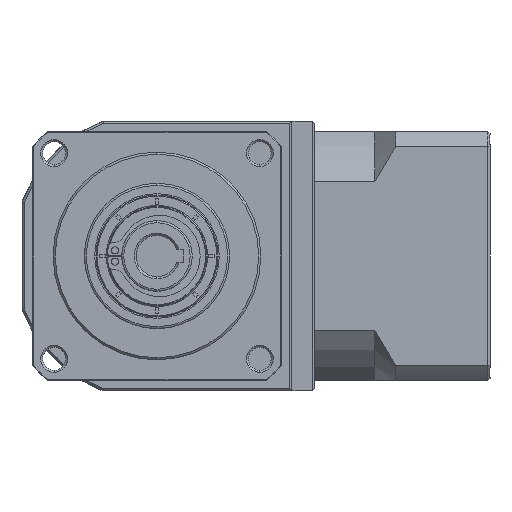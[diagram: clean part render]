
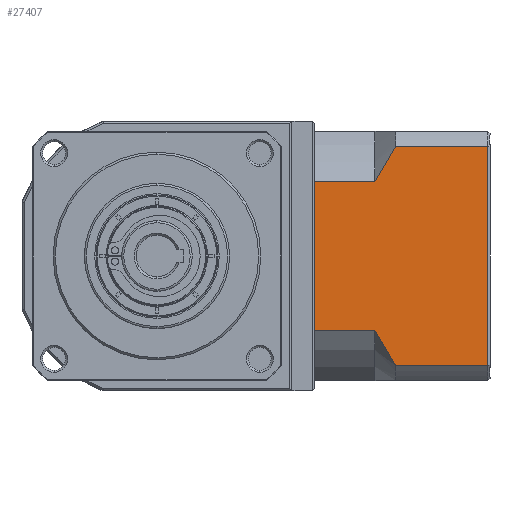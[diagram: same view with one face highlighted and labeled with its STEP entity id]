
A CAD part, left-side view. The second image highlights one B-rep face of the part: STEP entity #27407.
In plain terms, the highlighted planar face has unit normal (-1, 0, 0).
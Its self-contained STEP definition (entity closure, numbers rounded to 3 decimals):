
#817 = CARTESIAN_POINT ( 'NONE',  ( -17.619, -83.863, -97.155 ) ) ;
#2066 = FACE_OUTER_BOUND ( 'NONE', #101112, .T. ) ;
#3824 = ORIENTED_EDGE ( 'NONE', *, *, #89682, .T. ) ;
#4902 = VERTEX_POINT ( 'NONE', #12426 ) ;
#7370 = ORIENTED_EDGE ( 'NONE', *, *, #103445, .F. ) ;
#7656 = CARTESIAN_POINT ( 'NONE',  ( -17.619, -83.863, -97.155 ) ) ;
#8636 = CARTESIAN_POINT ( 'NONE',  ( -17.619, -80.415, -102.701 ) ) ;
#9087 = AXIS2_PLACEMENT_3D ( 'NONE', #95780, #25835, #107534 ) ;
#10046 = CARTESIAN_POINT ( 'NONE',  ( -17.619, -106.063, -97.155 ) ) ;
#12426 = CARTESIAN_POINT ( 'NONE',  ( -17.619, -83.863, -150.07 ) ) ;
#18865 = CARTESIAN_POINT ( 'NONE',  ( -17.619, -82.088, -147.327 ) ) ;
#19687 = EDGE_CURVE ( 'NONE', #131022, #4902, #69477, .T. ) ;
#19808 = VECTOR ( 'NONE', #116612, 1000. ) ;
#20461 = CARTESIAN_POINT ( 'NONE',  ( -17.619, -78.863, -105.585 ) ) ;
#20648 = CARTESIAN_POINT ( 'NONE',  ( -17.619, -78.863, -150.07 ) ) ;
#24207 = EDGE_CURVE ( 'NONE', #151086, #68899, #50859, .T. ) ;
#25835 = DIRECTION ( 'NONE',  ( 1., 0., 0. ) ) ;
#27407 = ADVANCED_FACE ( 'NONE', ( #2066 ), #95277, .F. ) ;
#27928 = LINE ( 'NONE', #20648, #86399 ) ;
#30537 = CARTESIAN_POINT ( 'NONE',  ( -17.619, -83.863, -150.07 ) ) ;
#32293 = DIRECTION ( 'NONE',  ( 0., 1., 0. ) ) ;
#32424 = VERTEX_POINT ( 'NONE', #123578 ) ;
#32905 = CARTESIAN_POINT ( 'NONE',  ( -17.619, -64.363, -105.585 ) ) ;
#35311 = CARTESIAN_POINT ( 'NONE',  ( -17.619, -78.863, -97.155 ) ) ;
#36500 = VECTOR ( 'NONE', #133128, 1000. ) ;
#50859 = LINE ( 'NONE', #35311, #19808 ) ;
#51828 = CARTESIAN_POINT ( 'NONE',  ( -17.619, -78.863, -105.585 ) ) ;
#56908 = ORIENTED_EDGE ( 'NONE', *, *, #130362, .F. ) ;
#58910 = LINE ( 'NONE', #105848, #117407 ) ;
#61340 = CARTESIAN_POINT ( 'NONE',  ( -17.619, -78.863, -105.585 ) ) ;
#65264 = CARTESIAN_POINT ( 'NONE',  ( -17.619, -79.614, -143.097 ) ) ;
#66124 = ORIENTED_EDGE ( 'NONE', *, *, #122752, .F. ) ;
#66845 = CARTESIAN_POINT ( 'NONE',  ( -17.619, -82.964, -98.515 ) ) ;
#67610 = LINE ( 'NONE', #120930, #36500 ) ;
#68899 = VERTEX_POINT ( 'NONE', #10046 ) ;
#69477 = B_SPLINE_CURVE_WITH_KNOTS ( 'NONE', 3,
 ( #146994, #65264, #88776, #18865, #100530, #30537 ),
 .UNSPECIFIED., .F., .F.,
 ( 4, 2, 4 ),
 ( 0.1, 0.104, 0.109 ),
 .UNSPECIFIED. ) ;
#71593 = EDGE_CURVE ( 'NONE', #131950, #68899, #67610, .T. ) ;
#76402 = B_SPLINE_CURVE_WITH_KNOTS ( 'NONE', 3,
 ( #7656, #66845, #78637, #8636, #90362, #20461 ),
 .UNSPECIFIED., .F., .F.,
 ( 4, 2, 4 ),
 ( 0.052, 0.057, 0.062 ),
 .UNSPECIFIED. ) ;
#78637 = CARTESIAN_POINT ( 'NONE',  ( -17.619, -82.091, -99.894 ) ) ;
#78743 = ORIENTED_EDGE ( 'NONE', *, *, #24207, .F. ) ;
#78883 = ORIENTED_EDGE ( 'NONE', *, *, #137811, .T. ) ;
#83586 = VERTEX_POINT ( 'NONE', #51828 ) ;
#86399 = VECTOR ( 'NONE', #32293, 1000. ) ;
#88776 = CARTESIAN_POINT ( 'NONE',  ( -17.619, -80.414, -144.522 ) ) ;
#89682 = EDGE_CURVE ( 'NONE', #151086, #83586, #76402, .T. ) ;
#90362 = CARTESIAN_POINT ( 'NONE',  ( -17.619, -79.611, -104.133 ) ) ;
#91517 = CARTESIAN_POINT ( 'NONE',  ( -17.619, -78.863, -141.64 ) ) ;
#95277 = PLANE ( 'NONE',  #9087 ) ;
#95780 = CARTESIAN_POINT ( 'NONE',  ( -17.619, -106.563, -153.613 ) ) ;
#95996 = LINE ( 'NONE', #117916, #150805 ) ;
#100530 = CARTESIAN_POINT ( 'NONE',  ( -17.619, -82.962, -148.707 ) ) ;
#101112 = EDGE_LOOP ( 'NONE', ( #7370, #149917, #78743, #3824, #56908, #78883, #66124, #111952 ) ) ;
#103445 = EDGE_CURVE ( 'NONE', #131950, #4902, #27928, .T. ) ;
#105848 = CARTESIAN_POINT ( 'NONE',  ( -17.619, -78.863, -141.64 ) ) ;
#106652 = DIRECTION ( 'NONE',  ( 0., 0., -1. ) ) ;
#107534 = DIRECTION ( 'NONE',  ( 0., 1., 0. ) ) ;
#111952 = ORIENTED_EDGE ( 'NONE', *, *, #19687, .T. ) ;
#116612 = DIRECTION ( 'NONE',  ( 0., -1., 0. ) ) ;
#117407 = VECTOR ( 'NONE', #117645, 1000. ) ;
#117645 = DIRECTION ( 'NONE',  ( 0., 1., 0. ) ) ;
#117916 = CARTESIAN_POINT ( 'NONE',  ( -17.619, -64.363, -153.613 ) ) ;
#120880 = LINE ( 'NONE', #61340, #148216 ) ;
#120930 = CARTESIAN_POINT ( 'NONE',  ( -17.619, -106.063, -153.613 ) ) ;
#122752 = EDGE_CURVE ( 'NONE', #131022, #32424, #58910, .T. ) ;
#123578 = CARTESIAN_POINT ( 'NONE',  ( -17.619, -64.363, -141.64 ) ) ;
#130362 = EDGE_CURVE ( 'NONE', #140142, #83586, #120880, .T. ) ;
#131022 = VERTEX_POINT ( 'NONE', #91517 ) ;
#131950 = VERTEX_POINT ( 'NONE', #138766 ) ;
#132314 = DIRECTION ( 'NONE',  ( 0., -1., 0. ) ) ;
#133128 = DIRECTION ( 'NONE',  ( 0., 0., 1. ) ) ;
#137811 = EDGE_CURVE ( 'NONE', #140142, #32424, #95996, .T. ) ;
#138766 = CARTESIAN_POINT ( 'NONE',  ( -17.619, -106.063, -150.07 ) ) ;
#140142 = VERTEX_POINT ( 'NONE', #32905 ) ;
#146994 = CARTESIAN_POINT ( 'NONE',  ( -17.619, -78.863, -141.64 ) ) ;
#148216 = VECTOR ( 'NONE', #132314, 1000. ) ;
#149917 = ORIENTED_EDGE ( 'NONE', *, *, #71593, .T. ) ;
#150805 = VECTOR ( 'NONE', #106652, 1000. ) ;
#151086 = VERTEX_POINT ( 'NONE', #817 ) ;
